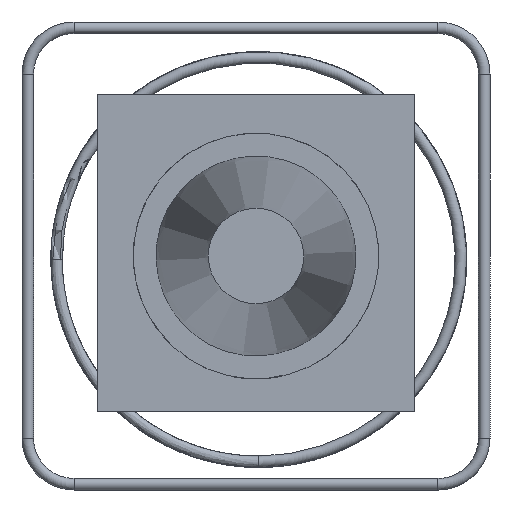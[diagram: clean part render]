
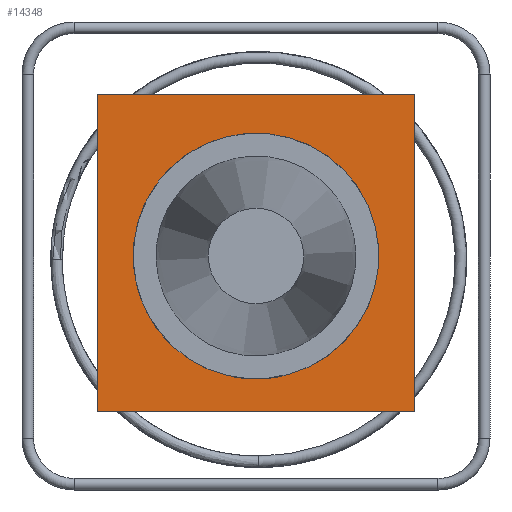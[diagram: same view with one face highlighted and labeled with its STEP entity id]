
A CAD part, left-side view. The second image highlights one B-rep face of the part: STEP entity #14348.
In plain terms, the highlighted planar face has unit normal (-1, 0, 0).
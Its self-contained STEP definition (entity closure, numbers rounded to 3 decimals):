
#1460=PLANE('',#15080);
#2365=LINE('',#40877,#3280);
#2369=LINE('',#40884,#3284);
#2372=LINE('',#40889,#3287);
#2375=LINE('',#40893,#3290);
#3280=VECTOR('',#17415,550.);
#3284=VECTOR('',#17421,550.);
#3287=VECTOR('',#17426,550.);
#3290=VECTOR('',#17431,550.);
#3539=FACE_BOUND('',#5306,.T.);
#4363=FACE_OUTER_BOUND('',#5305,.T.);
#5305=EDGE_LOOP('',(#13211,#13212,#13213,#13214));
#5306=EDGE_LOOP('',(#13215));
#5688=CIRCLE('',#15007,212.5);
#7080=VERTEX_POINT('',#34187);
#7110=VERTEX_POINT('',#40875);
#7111=VERTEX_POINT('',#40876);
#7113=VERTEX_POINT('',#40883);
#7114=VERTEX_POINT('',#40888);
#9124=EDGE_CURVE('',#7080,#7080,#5688,.T.);
#9156=EDGE_CURVE('',#7110,#7111,#2365,.T.);
#9160=EDGE_CURVE('',#7111,#7113,#2369,.T.);
#9163=EDGE_CURVE('',#7113,#7114,#2372,.T.);
#9166=EDGE_CURVE('',#7114,#7110,#2375,.T.);
#13211=ORIENTED_EDGE('',*,*,#9166,.T.);
#13212=ORIENTED_EDGE('',*,*,#9156,.T.);
#13213=ORIENTED_EDGE('',*,*,#9160,.T.);
#13214=ORIENTED_EDGE('',*,*,#9163,.T.);
#13215=ORIENTED_EDGE('',*,*,#9124,.T.);
#14348=ADVANCED_FACE('',(#4363,#3539),#1460,.F.);
#15007=AXIS2_PLACEMENT_3D('',#34188,#17269,#17270);
#15080=AXIS2_PLACEMENT_3D('',#40895,#17433,#17434);
#17269=DIRECTION('center_axis',(1.,0.,0.));
#17270=DIRECTION('ref_axis',(0.,0.08,-0.997));
#17415=DIRECTION('',(0.,0.,-1.));
#17421=DIRECTION('',(0.,-1.,0.));
#17426=DIRECTION('',(0.,0.,1.));
#17431=DIRECTION('',(0.,1.,0.));
#17433=DIRECTION('center_axis',(1.,0.,0.));
#17434=DIRECTION('ref_axis',(0.,0.,1.));
#34187=CARTESIAN_POINT('',(-112.151,17.006,-211.818));
#34188=CARTESIAN_POINT('Origin',(-112.151,0.,
0.));
#40875=CARTESIAN_POINT('',(-112.151,275.,280.253));
#40876=CARTESIAN_POINT('',(-112.151,275.,-269.747));
#40877=CARTESIAN_POINT('',(-112.151,275.,280.253));
#40883=CARTESIAN_POINT('',(-112.151,-275.,-269.747));
#40884=CARTESIAN_POINT('',(-112.151,275.,-269.747));
#40888=CARTESIAN_POINT('',(-112.151,-275.,280.253));
#40889=CARTESIAN_POINT('',(-112.151,-275.,-269.747));
#40893=CARTESIAN_POINT('',(-112.151,-275.,280.253));
#40895=CARTESIAN_POINT('Origin',(-112.151,0.,
5.253));
